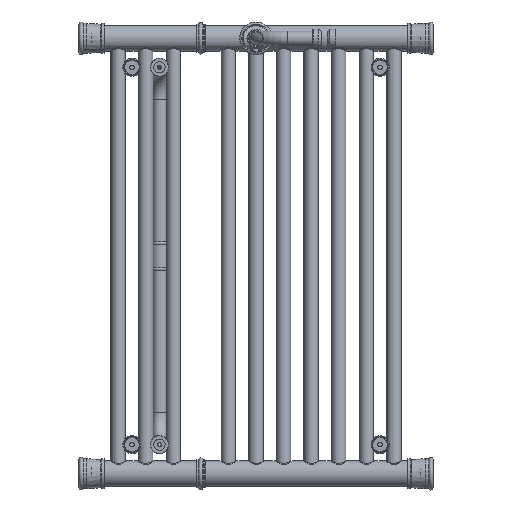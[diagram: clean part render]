
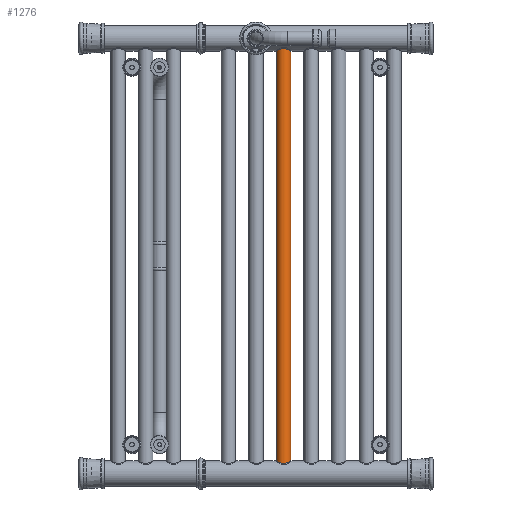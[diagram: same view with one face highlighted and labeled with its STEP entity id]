
A CAD part, left-side view. The second image highlights one B-rep face of the part: STEP entity #1276.
In plain terms, the highlighted cylindrical face has radius 10 mm (diameter 20 mm), a full revolution.
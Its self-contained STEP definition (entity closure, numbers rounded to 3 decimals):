
#1276 = ADVANCED_FACE( '', ( #2685, #2686 ), #2687, .T. );
#2685 = FACE_OUTER_BOUND( '', #4198, .T. );
#2686 = FACE_OUTER_BOUND( '', #4199, .T. );
#2687 = CYLINDRICAL_SURFACE( '', #4200, 10. );
#4198 = EDGE_LOOP( '', ( #6176 ) );
#4199 = EDGE_LOOP( '', ( #6177 ) );
#4200 = AXIS2_PLACEMENT_3D( '', #6178, #6179, #6180 );
#6176 = ORIENTED_EDGE( '', *, *, #6263, .T. );
#6177 = ORIENTED_EDGE( '', *, *, #6314, .F. );
#6178 = CARTESIAN_POINT( '', ( 292., 0., 0. ) );
#6179 = DIRECTION( '', ( 1., 0., 0. ) );
#6180 = DIRECTION( '', ( 0., 0., 1. ) );
#6263 = EDGE_CURVE( '', #6946, #6946, #6947, .T. );
#6314 = EDGE_CURVE( '', #7029, #7029, #7030, .T. );
#6946 = VERTEX_POINT( '', #8085 );
#6947 = CIRCLE( '', #8086, 10. );
#7029 = VERTEX_POINT( '', #8168 );
#7030 = CIRCLE( '', #8169, 10. );
#8085 = CARTESIAN_POINT( '', ( 292., 10., 0. ) );
#8086 = AXIS2_PLACEMENT_3D( '', #12913, #12914, #12915 );
#8168 = CARTESIAN_POINT( '', ( -292., 10., 0. ) );
#8169 = AXIS2_PLACEMENT_3D( '', #13009, #13010, #13011 );
#12913 = CARTESIAN_POINT( '', ( 292., 0., 0. ) );
#12914 = DIRECTION( '', ( -1., 0., 0. ) );
#12915 = DIRECTION( '', ( 0., 1., 0. ) );
#13009 = CARTESIAN_POINT( '', ( -292., 0., 0. ) );
#13010 = DIRECTION( '', ( -1., 0., 0. ) );
#13011 = DIRECTION( '', ( 0., 1., 0. ) );
